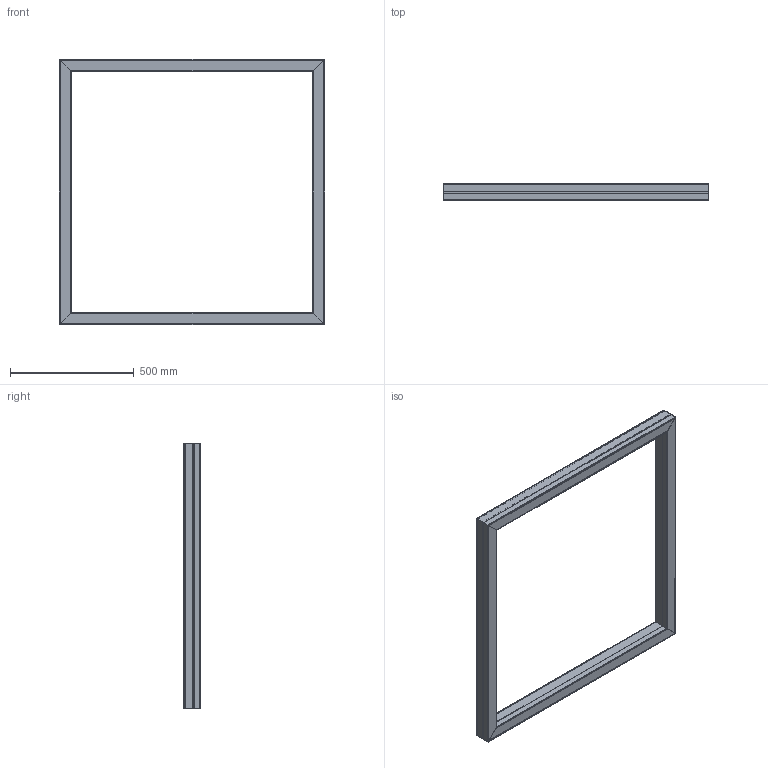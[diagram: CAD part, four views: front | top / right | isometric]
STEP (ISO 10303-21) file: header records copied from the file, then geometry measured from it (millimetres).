
FILE_DESCRIPTION(('STEP AP203'), '1');
FILE_NAME('Ìèêêî êâàäð', '', ('UNSPECIFIED'), ('UNSPECIFIED'), 'ASCON STEP Converter 1.6', 'ASCON Math Kernel', '');
FILE_SCHEMA(('CONFIG_CONTROL_DESIGN'));
Length unit declared in the file: millimetre
Assembly tree (4 placements, depth 2):
  (unnamed)
    (unnamed)
    (unnamed)  x2
    (unnamed)
Bounding box: 1071 x 70 x 1071 mm (x, y, z)
Volume: 1771494.2 mm3; surface area: 2716123.7 mm2
Topology: 9 solids, 9 shells, 806 faces, 2359 edges, 1572 vertices
Faces by surface type: cylinder 464, plane 340, torus 2
Full cylindrical faces by diameter (mm): 8 x1, 10 x2, 14 x2
Entity records: 20277 total; most frequent: CARTESIAN_POINT 5731, ORIENTED_EDGE 3540, DIRECTION 2320, EDGE_CURVE 1770, VERTEX_POINT 1184, LINE 1066, VECTOR 1066, AXIS2_PLACEMENT_3D 627
